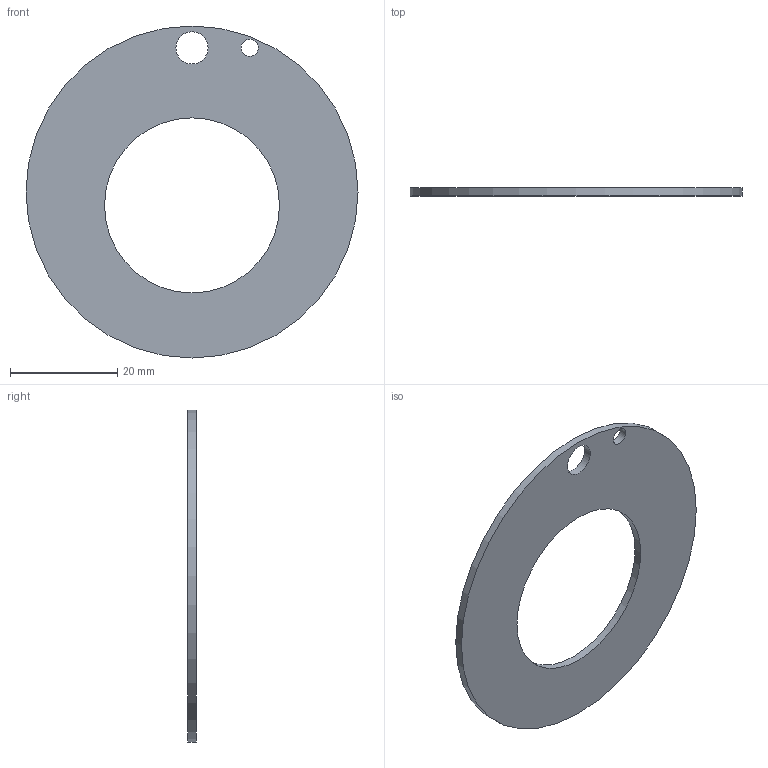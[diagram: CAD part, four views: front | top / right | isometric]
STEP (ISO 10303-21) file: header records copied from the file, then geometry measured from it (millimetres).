
FILE_DESCRIPTION(('FreeCAD Model'),'2;1');
FILE_NAME('Open CASCADE Shape Model','2026-11-20T08:25:32',('FreeCAD'),( 'FreeCAD'),'Open CASCADE STEP processor 7.8','FreeCAD','Unknown');
FILE_SCHEMA(('AUTOMOTIVE_DESIGN { 1 0 10303 214 1 1 1 1 }'));
Length unit declared in the file: millimetre
Products named in the file (1): Open CASCADE STEP translator 7.8 6
Bounding box: 61.92 x 1.5 x 61.92 mm (x, y, z)
Volume: 3207.3 mm3; surface area: 4765.4 mm2
Topology: 1 solids, 1 shells, 6 faces, 12 edges, 8 vertices
Faces by surface type: cylinder 4, plane 2
Full cylindrical faces by diameter (mm): 3.2 x1, 6 x1, 32.64 x1, 61.92 x1
Entity records: 186 total; most frequent: DIRECTION 34, CARTESIAN_POINT 27, ORIENTED_EDGE 24, AXIS2_PLACEMENT_3D 15, FACE_BOUND 12, EDGE_LOOP 12, EDGE_CURVE 12, VERTEX_POINT 8
